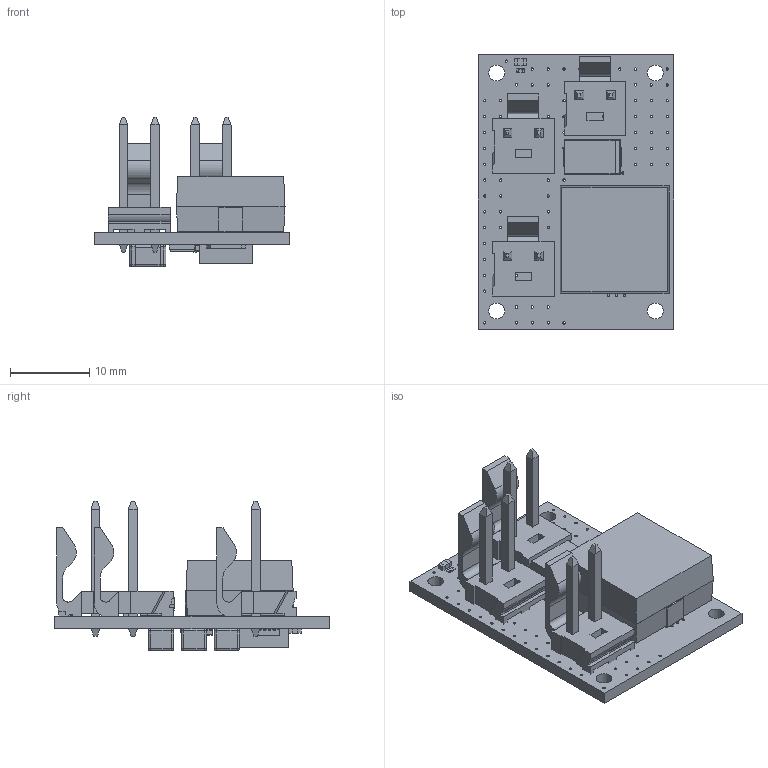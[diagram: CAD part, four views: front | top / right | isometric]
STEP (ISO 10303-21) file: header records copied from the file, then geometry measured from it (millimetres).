
FILE_DESCRIPTION(/* description */ (''),/* implementation_level */ '2;1');
FILE_NAME(/* name */ 'C:/Users/priba/Documents/Temp/Export/mrm-ps10a.step',/* time_stamp */ '2019-09-09T12:59:28+02:00',/* author */ (''),/* organization */ (''),/* preprocessor_version */ 'ST-DEVELOPER v18',/* originating_system */ 'Autodesk Translation Framework v8.6.0.1094',/* authorisation */ '');
FILE_SCHEMA (('AUTOMOTIVE_DESIGN { 1 0 10303 214 3 1 1 }'));
Length unit declared in the file: millimetre
Products named in the file (28): mrm-ps10a; PCB Component; Board; 22 uF; Fillet1; Fillet2; body2; 6.8 nF; 47 uF; Body; FilletPin1; FilletPin2; SMC_DIODE_SOLUTIONS_SBRD10200TR; MOLEX_1718130002; BOURNS_SRP1270-3R3M; Chamfer; FilletPin1 (1); FilletPin2 (1); TI_CSD25402Q3A; 10 kOhm; SUSUMU_PRL1632-R010-F-T1; term1; term2; body_1; TI_LM25085ASD_NOPB; FIDUCIAL1X2; CHIPLED_0402; ? kOhm
Assembly tree (39 placements, depth 4):
  mrm-ps10a
    PCB Component
      Board
      22 uF  x3
        Fillet1
        Fillet2
        body2
      6.8 nF  x3
      47 uF
        Body
        FilletPin1
        FilletPin2
      SMC_DIODE_SOLUTIONS_SBRD10200TR
      MOLEX_1718130002  x3
      BOURNS_SRP1270-3R3M
        Chamfer
        FilletPin1 (1)
        FilletPin2 (1)
      TI_CSD25402Q3A
      10 kOhm  x4
      SUSUMU_PRL1632-R010-F-T1
        term1
        term2
        body_1
      TI_LM25085ASD_NOPB
      FIDUCIAL1X2  x4
      CHIPLED_0402
      ? kOhm
Bounding box: 24.6 x 34.6 x 18.88 mm (x, y, z)
Volume: 3609.2 mm3; surface area: 5074.7 mm2
Topology: 45 solids, 45 shells, 1577 faces, 4243 edges, 2734 vertices
Faces by surface type: plane 902, cylinder 507, sphere 136, bspline 32
Full cylindrical faces by diameter (mm): 0.3 x124, 1.73 x6, 2 x4
Entity records: 31671 total; most frequent: CARTESIAN_POINT 7146, ORIENTED_EDGE 4776, DIRECTION 4629, EDGE_CURVE 2388, AXIS2_PLACEMENT_3D 1555, VERTEX_POINT 1531, LINE 1519, VECTOR 1519
